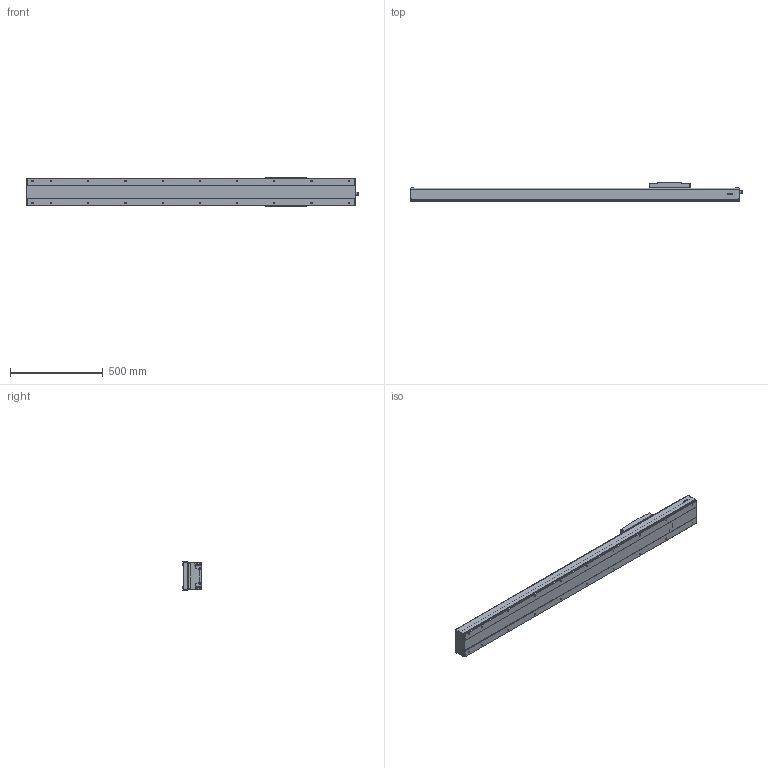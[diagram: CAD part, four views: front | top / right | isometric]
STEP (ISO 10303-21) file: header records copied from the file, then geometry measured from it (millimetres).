
FILE_DESCRIPTION(/* description */ (''),/* implementation_level */ '2;1');
FILE_NAME(/* name */ 'D:\混合母檔20191031\混和母檔\混和母檔\bin\Debug\Download\3D\KS150-10C-1250AFI\KS150-10C-1250AFI.stp',/* time_stamp */ '2019-11-04T15:54:22+08:00',/* author */ ('user'),/* organization */ (''),/* preprocessor_version */ 'ST-DEVELOPER v16.13',/* originating_system */ 'Autodesk Inventor 2018',/* authorisation */ '');
FILE_SCHEMA (('AUTOMOTIVE_DESIGN { 1 0 10303 214 3 1 1 }'));
Length unit declared in the file: millimetre
Products named in the file (3): KS150-10C-1250AFI; KS150-FI; KS150-SL
Assembly tree (2 placements, depth 2):
  KS150-10C-1250AFI
    KS150-FI
    KS150-SL
Bounding box: 1785.05 x 100 x 152.4 mm (x, y, z)
Volume: 7105668.8 mm3; surface area: 1721217.9 mm2
Topology: 4 solids, 8 shells, 1253 faces, 3305 edges, 2142 vertices
Faces by surface type: plane 615, cone 234, cylinder 196, bspline 136, torus 68, sphere 4
Full cylindrical faces by diameter (mm): 3.242 x12, 3.571 x8, 4.134 x4, 4.5 x8, 4.509 x6, 4.917 x4, 5 x18, 5.5 x12, 6 x2, 6.647 x24, 8 x4, 8.4 x8, 9.3 x12, 10.437 x1, 12 x1, 14 x1, 15 x1, 15.538 x1, 23 x1, 46 x1, 50 x1
Entity records: 41208 total; most frequent: CARTESIAN_POINT 12756, ORIENTED_EDGE 5864, DIRECTION 5473, EDGE_CURVE 2932, VERTEX_POINT 2028, AXIS2_PLACEMENT_3D 1904, LINE 1665, VECTOR 1665
